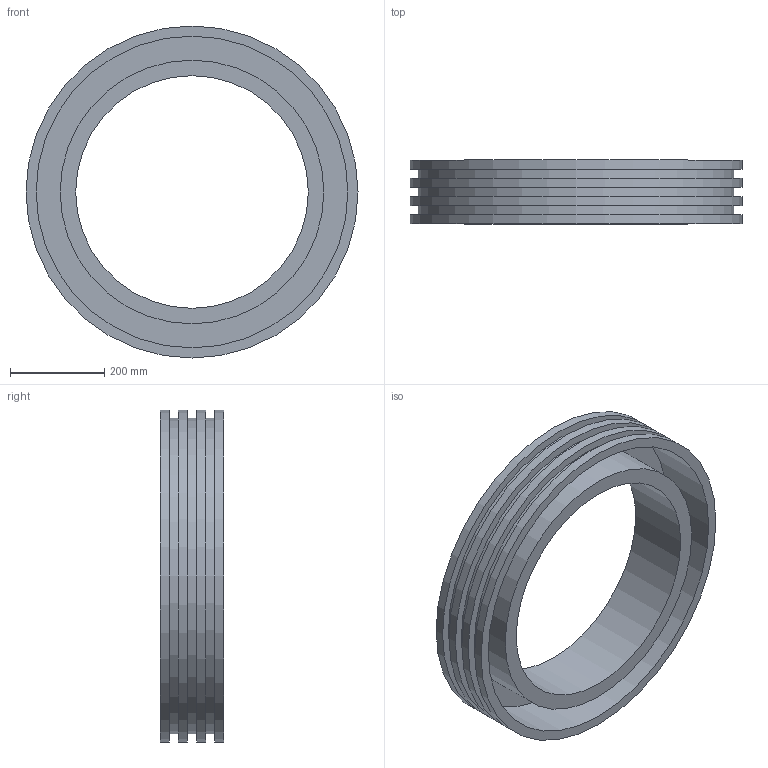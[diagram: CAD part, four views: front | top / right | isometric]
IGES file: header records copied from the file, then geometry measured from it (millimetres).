
Global section: file name: 37020560.ipt; native system: Autodesk Inventor 2015; preprocessor: unknown; author: Кирилл,,11,0; organization: 20170830.190241; date: 20171106.093322; units: millimetre
Bounding box: 705 x 135 x 705 mm (x, y, z)
Volume: 12350186.4 mm3; surface area: 1609112.4 mm2
Topology: 1 solids, 1 shells, 20 faces, 34 edges, 24 vertices
Faces by surface type: plane 10, cylinder 8, revolution 2
Full cylindrical faces by diameter (mm): 560 x1, 669.75 x3, 705 x4
